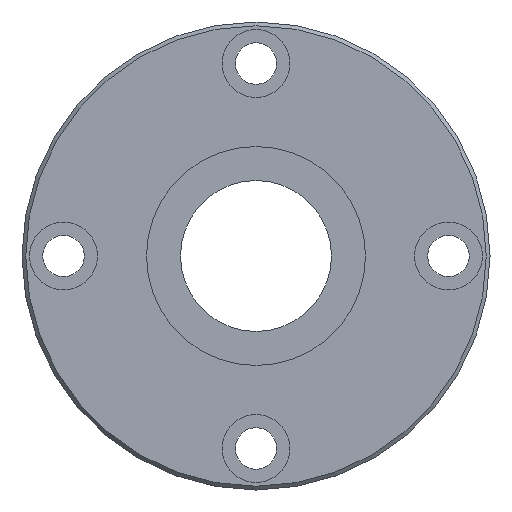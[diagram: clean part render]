
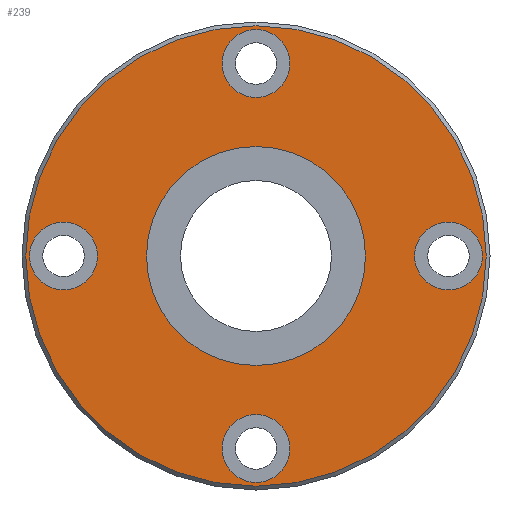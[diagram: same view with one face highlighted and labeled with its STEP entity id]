
A CAD part, left-side view. The second image highlights one B-rep face of the part: STEP entity #239.
In plain terms, the highlighted planar face has unit normal (-1, 0, 0).
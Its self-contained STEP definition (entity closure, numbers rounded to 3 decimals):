
#164=CARTESIAN_POINT('',(0.0,0.,30.5));
#165=VERTEX_POINT('',#164);
#166=CARTESIAN_POINT('',(0.0,0.0,0.0));
#167=DIRECTION('',(1.0,0.0,0.0));
#168=DIRECTION('',(0.0,0.0,-1.0));
#169=AXIS2_PLACEMENT_3D('',#166,#167,#168);
#170=CIRCLE('',#169,30.5);
#171=EDGE_CURVE('',#165,#165,#170,.T.);
#176=CARTESIAN_POINT('',(0.0,0.0,17.25));
#177=DIRECTION('',(-1.0,0.0,0.0));
#178=DIRECTION('',(0.0,0.0,1.0));
#179=AXIS2_PLACEMENT_3D('',#176,#177,#178);
#180=PLANE('',#179);
#181=ORIENTED_EDGE('',*,*,#171,.F.);
#182=EDGE_LOOP('',(#181));
#183=FACE_OUTER_BOUND('',#182,.T.);
#184=CARTESIAN_POINT('',(0.0,0.0,14.5));
#185=VERTEX_POINT('',#184);
#186=CARTESIAN_POINT('',(0.0,0.0,0.0));
#187=DIRECTION('',(-1.0,0.0,0.0));
#188=DIRECTION('',(0.0,0.0,1.0));
#189=AXIS2_PLACEMENT_3D('',#186,#187,#188);
#190=CIRCLE('',#189,14.5);
#191=EDGE_CURVE('',#185,#185,#190,.T.);
#192=ORIENTED_EDGE('',*,*,#191,.F.);
#193=EDGE_LOOP('',(#192));
#194=FACE_BOUND('',#193,.T.);
#195=CARTESIAN_POINT('',(0.0,-21.0,0.));
#196=VERTEX_POINT('',#195);
#197=CARTESIAN_POINT('',(0.0,-25.5,0.));
#198=DIRECTION('',(1.0,0.0,0.0));
#199=DIRECTION('',(0.0,1.0,0.0));
#200=AXIS2_PLACEMENT_3D('',#197,#198,#199);
#201=CIRCLE('',#200,4.5);
#202=EDGE_CURVE('',#196,#196,#201,.T.);
#203=ORIENTED_EDGE('',*,*,#202,.T.);
#204=EDGE_LOOP('',(#203));
#205=FACE_BOUND('',#204,.T.);
#206=CARTESIAN_POINT('',(0.0,30.,0.));
#207=VERTEX_POINT('',#206);
#208=CARTESIAN_POINT('',(0.0,25.5,0.));
#209=DIRECTION('',(1.0,0.0,0.0));
#210=DIRECTION('',(0.0,1.0,0.0));
#211=AXIS2_PLACEMENT_3D('',#208,#209,#210);
#212=CIRCLE('',#211,4.5);
#213=EDGE_CURVE('',#207,#207,#212,.T.);
#214=ORIENTED_EDGE('',*,*,#213,.T.);
#215=EDGE_LOOP('',(#214));
#216=FACE_BOUND('',#215,.T.);
#217=CARTESIAN_POINT('',(0.0,4.5,25.5));
#218=VERTEX_POINT('',#217);
#219=CARTESIAN_POINT('',(0.0,0.,25.5));
#220=DIRECTION('',(1.0,0.0,0.0));
#221=DIRECTION('',(0.0,1.0,0.0));
#222=AXIS2_PLACEMENT_3D('',#219,#220,#221);
#223=CIRCLE('',#222,4.5);
#224=EDGE_CURVE('',#218,#218,#223,.T.);
#225=ORIENTED_EDGE('',*,*,#224,.T.);
#226=EDGE_LOOP('',(#225));
#227=FACE_BOUND('',#226,.T.);
#228=CARTESIAN_POINT('',(0.0,4.5,-25.5));
#229=VERTEX_POINT('',#228);
#230=CARTESIAN_POINT('',(0.0,0.,-25.5));
#231=DIRECTION('',(1.0,0.0,0.0));
#232=DIRECTION('',(0.0,1.0,0.0));
#233=AXIS2_PLACEMENT_3D('',#230,#231,#232);
#234=CIRCLE('',#233,4.5);
#235=EDGE_CURVE('',#229,#229,#234,.T.);
#236=ORIENTED_EDGE('',*,*,#235,.T.);
#237=EDGE_LOOP('',(#236));
#238=FACE_BOUND('',#237,.T.);
#239=ADVANCED_FACE('',(#183,#194,#205,#216,#227,#238),#180,.T.);
